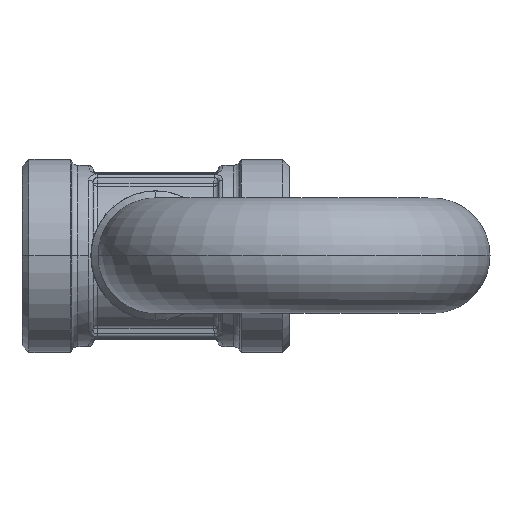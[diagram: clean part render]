
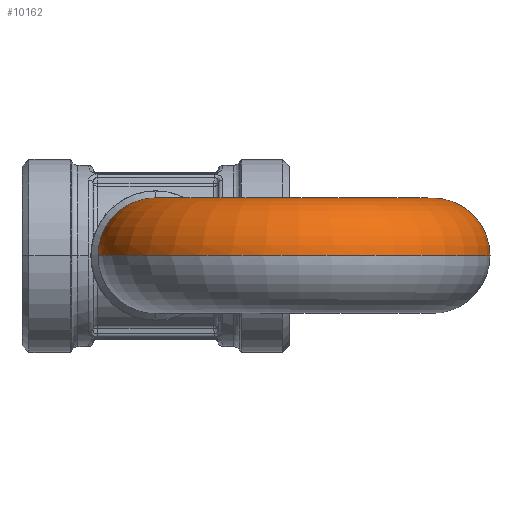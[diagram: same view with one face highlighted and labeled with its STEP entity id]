
A CAD part, top view. The second image highlights one B-rep face of the part: STEP entity #10162.
In plain terms, the highlighted toroidal (fillet/blend) face has major radius 30 mm and minor radius 12.5 mm.
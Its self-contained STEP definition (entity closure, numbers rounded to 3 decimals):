
#321 = CARTESIAN_POINT ( 'NONE',  ( 18.584, -0.977, -5.165 ) ) ;
#924 = CARTESIAN_POINT ( 'NONE',  ( 23.37, -0.989, -10.618 ) ) ;
#1080 = CARTESIAN_POINT ( 'NONE',  ( 22.353, -0.987, -9.938 ) ) ;
#1310 = VERTEX_POINT ( 'NONE', #12063 ) ;
#1712 = CARTESIAN_POINT ( 'NONE',  ( 34.009, -1., -11.842 ) ) ;
#1861 = CARTESIAN_POINT ( 'NONE',  ( 34.398, -1., -11.703 ) ) ;
#2171 = CARTESIAN_POINT ( 'NONE',  ( 39.926, -1., -7.625 ) ) ;
#2689 = B_SPLINE_CURVE_WITH_KNOTS ( 'NONE', 3,
 ( #16621, #14279, #23750, #26390, #21596, #16935, #19092, #321, #28571, #7316, #8238, #3276, #17395, #17244, #20017, #1080, #924, #8092, #26710, #10410, #10112, #19403, #3574, #5301, #24826, #29181, #5463 ),
 .UNSPECIFIED., .F., .F.,
 ( 4, 2, 2, 2, 2, 1, 2, 2, 2, 2, 2, 2, 2, 4 ),
 ( 0.02, 0.021, 0.022, 0.025, 0.026, 0.027, 0.028, 0.029, 0.032, 0.033, 0.034, 0.037, 0.038, 0.039 ),
 .UNSPECIFIED. ) ;
#2742 = DIRECTION ( 'NONE',  ( 1., 0., 0. ) ) ;
#3276 = CARTESIAN_POINT ( 'NONE',  ( 20.052, -0.981, -7.612 ) ) ;
#3445 = CARTESIAN_POINT ( 'NONE',  ( 42.488, -1., -0.407 ) ) ;
#3574 = CARTESIAN_POINT ( 'NONE',  ( 27.938, -0.997, -12.338 ) ) ;
#4194 = CARTESIAN_POINT ( 'NONE',  ( 39.41, -1., -8.254 ) ) ;
#4342 = CARTESIAN_POINT ( 'NONE',  ( 32.437, -1., -12.277 ) ) ;
#4492 = CARTESIAN_POINT ( 'NONE',  ( 30.402, -1., -12.5 ) ) ;
#5301 = CARTESIAN_POINT ( 'NONE',  ( 28.347, -0.998, -12.399 ) ) ;
#5463 = CARTESIAN_POINT ( 'NONE',  ( 29.992, -1., -12.5 ) ) ;
#5729 = EDGE_LOOP ( 'NONE', ( #10240, #19951, #8243, #11406, #9794 ) ) ;
#5947 = VERTEX_POINT ( 'NONE', #6864 ) ;
#6380 = CARTESIAN_POINT ( 'NONE',  ( 31.631, -1., -12.398 ) ) ;
#6467 = DIRECTION ( 'NONE',  ( 0., 0., 1. ) ) ;
#6524 = VERTEX_POINT ( 'NONE', #24897 ) ;
#6686 = CARTESIAN_POINT ( 'NONE',  ( 35.538, -1., -11.229 ) ) ;
#6864 = CARTESIAN_POINT ( 'NONE',  ( -42.5, 0., 0. ) ) ;
#7316 = CARTESIAN_POINT ( 'NONE',  ( 19.147, -0.978, -6.258 ) ) ;
#7718 = AXIS2_PLACEMENT_3D ( 'NONE', #27435, #22763, #25397 ) ;
#8092 = CARTESIAN_POINT ( 'NONE',  ( 23.721, -0.99, -10.829 ) ) ;
#8238 = CARTESIAN_POINT ( 'NONE',  ( 19.566, -0.98, -6.957 ) ) ;
#8243 = ORIENTED_EDGE ( 'NONE', *, *, #22248, .T. ) ;
#9738 = FACE_OUTER_BOUND ( 'NONE', #5729, .T. ) ;
#9794 = ORIENTED_EDGE ( 'NONE', *, *, #21759, .F. ) ;
#10112 = CARTESIAN_POINT ( 'NONE',  ( 25.953, -0.994, -11.861 ) ) ;
#10162 = ADVANCED_FACE ( 'NONE', ( #9738 ), #14504, .T. ) ;
#10240 = ORIENTED_EDGE ( 'NONE', *, *, #25401, .F. ) ;
#10410 = CARTESIAN_POINT ( 'NONE',  ( 24.821, -0.992, -11.393 ) ) ;
#10885 = CARTESIAN_POINT ( 'NONE',  ( 42.488, -1., 0. ) ) ;
#11038 = AXIS2_PLACEMENT_3D ( 'NONE', #28667, #23987, #2742 ) ;
#11186 = CARTESIAN_POINT ( 'NONE',  ( 30.816, -1., -12.479 ) ) ;
#11406 = ORIENTED_EDGE ( 'NONE', *, *, #14247, .T. ) ;
#11489 = CARTESIAN_POINT ( 'NONE',  ( 41.383, -1., -5.155 ) ) ;
#12063 = CARTESIAN_POINT ( 'NONE',  ( 29.992, -1., -12.5 ) ) ;
#12736 = CARTESIAN_POINT ( 'NONE',  ( 42.468, -1., -0.814 ) ) ;
#13125 = CIRCLE ( 'NONE', #19081, 42.5 ) ;
#13236 = VERTEX_POINT ( 'NONE', #15555 ) ;
#13451 = AXIS2_PLACEMENT_3D ( 'NONE', #23779, #26122, #18673 ) ;
#13812 = CARTESIAN_POINT ( 'NONE',  ( 37.273, -1., -10.165 ) ) ;
#14247 = EDGE_CURVE ( 'NONE', #22150, #1310, #2689, .T. ) ;
#14279 = CARTESIAN_POINT ( 'NONE',  ( 17.473, -0.973, -0.409 ) ) ;
#14504 = TOROIDAL_SURFACE ( 'NONE', #11038, 30., 12.5 ) ;
#15395 = CARTESIAN_POINT ( 'NONE',  ( 41.85, -1., -4.026 ) ) ;
#15555 = CARTESIAN_POINT ( 'NONE',  ( 42.488, -1., 0. ) ) ;
#16006 = CARTESIAN_POINT ( 'NONE',  ( 40.821, -1., -6.25 ) ) ;
#16154 = CARTESIAN_POINT ( 'NONE',  ( 38.237, -1., -9.4 ) ) ;
#16298 = CARTESIAN_POINT ( 'NONE',  ( 29.992, -1., -12.5 ) ) ;
#16575 = EDGE_CURVE ( 'NONE', #5947, #6524, #21607, .T. ) ;
#16621 = CARTESIAN_POINT ( 'NONE',  ( 17.473, -0.973, 0. ) ) ;
#16935 = CARTESIAN_POINT ( 'NONE',  ( 17.874, -0.974, -3.244 ) ) ;
#17244 = CARTESIAN_POINT ( 'NONE',  ( 20.85, -0.983, -8.551 ) ) ;
#17395 = CARTESIAN_POINT ( 'NONE',  ( 20.572, -0.982, -8.245 ) ) ;
#18374 = CARTESIAN_POINT ( 'NONE',  ( 17.473, -0.973, 0. ) ) ;
#18467 = CARTESIAN_POINT ( 'NONE',  ( 41.208, -1., -5.525 ) ) ;
#18673 = DIRECTION ( 'NONE',  ( 1., 0., 0. ) ) ;
#19081 = AXIS2_PLACEMENT_3D ( 'NONE', #25229, #6467, #25383 ) ;
#19092 = CARTESIAN_POINT ( 'NONE',  ( 18.111, -0.975, -4.024 ) ) ;
#19403 = CARTESIAN_POINT ( 'NONE',  ( 26.732, -0.995, -12.098 ) ) ;
#19951 = ORIENTED_EDGE ( 'NONE', *, *, #16575, .T. ) ;
#20017 = CARTESIAN_POINT ( 'NONE',  ( 21.722, -0.985, -9.422 ) ) ;
#21357 = B_SPLINE_CURVE_WITH_KNOTS ( 'NONE', 3,
 ( #10885, #3445, #12736, #22665, #27181, #22218, #15395, #11489, #18467, #16006, #23273, #2171, #4194, #30389, #16154, #22961, #13812, #25604, #6686, #1861, #1712, #27947, #4342, #6380, #11186, #4492, #16298 ),
 .UNSPECIFIED., .F., .F.,
 ( 4, 2, 2, 2, 2, 2, 2, 2, 2, 2, 2, 1, 2, 4 ),
 ( 0.048, 0.049, 0.051, 0.053, 0.054, 0.055, 0.058, 0.059, 0.06, 0.063, 0.064, 0.065, 0.066, 0.068 ),
 .UNSPECIFIED. ) ;
#21596 = CARTESIAN_POINT ( 'NONE',  ( 17.635, -0.973, -2.045 ) ) ;
#21607 = CIRCLE ( 'NONE', #7718, 12.5 ) ;
#21759 = EDGE_CURVE ( 'NONE', #13236, #1310, #21357, .T. ) ;
#22150 = VERTEX_POINT ( 'NONE', #18374 ) ;
#22218 = CARTESIAN_POINT ( 'NONE',  ( 42.087, -1., -3.246 ) ) ;
#22248 = EDGE_CURVE ( 'NONE', #6524, #22150, #29316, .T. ) ;
#22665 = CARTESIAN_POINT ( 'NONE',  ( 42.389, -1., -1.627 ) ) ;
#22763 = DIRECTION ( 'NONE',  ( 0., -1., 0. ) ) ;
#22961 = CARTESIAN_POINT ( 'NONE',  ( 37.601, -1., -9.922 ) ) ;
#23273 = CARTESIAN_POINT ( 'NONE',  ( 40.608, -1., -6.605 ) ) ;
#23750 = CARTESIAN_POINT ( 'NONE',  ( 17.493, -0.973, -0.822 ) ) ;
#23779 = CARTESIAN_POINT ( 'NONE',  ( 0., 0., 0. ) ) ;
#23987 = DIRECTION ( 'NONE',  ( 0., 0., 1. ) ) ;
#24826 = CARTESIAN_POINT ( 'NONE',  ( 29.167, -0.999, -12.48 ) ) ;
#24897 = CARTESIAN_POINT ( 'NONE',  ( -17.5, 0., 0. ) ) ;
#25229 = CARTESIAN_POINT ( 'NONE',  ( 0., 0., 0. ) ) ;
#25383 = DIRECTION ( 'NONE',  ( 1., 0., 0. ) ) ;
#25397 = DIRECTION ( 'NONE',  ( 1., 0., 0. ) ) ;
#25401 = EDGE_CURVE ( 'NONE', #5947, #13236, #13125, .T. ) ;
#25604 = CARTESIAN_POINT ( 'NONE',  ( 36.256, -1., -10.844 ) ) ;
#26122 = DIRECTION ( 'NONE',  ( 0., 0., 1. ) ) ;
#26390 = CARTESIAN_POINT ( 'NONE',  ( 17.574, -0.973, -1.641 ) ) ;
#26710 = CARTESIAN_POINT ( 'NONE',  ( 24.449, -0.991, -11.217 ) ) ;
#27181 = CARTESIAN_POINT ( 'NONE',  ( 42.328, -1., -2.034 ) ) ;
#27435 = CARTESIAN_POINT ( 'NONE',  ( -30., 0., 0. ) ) ;
#27947 = CARTESIAN_POINT ( 'NONE',  ( 33.227, -1., -12.079 ) ) ;
#28571 = CARTESIAN_POINT ( 'NONE',  ( 18.761, -0.977, -5.538 ) ) ;
#28667 = CARTESIAN_POINT ( 'NONE',  ( 0., 0., 0. ) ) ;
#29181 = CARTESIAN_POINT ( 'NONE',  ( 29.579, -0.999, -12.5 ) ) ;
#29316 = CIRCLE ( 'NONE', #13451, 17.5 ) ;
#30389 = CARTESIAN_POINT ( 'NONE',  ( 38.543, -1., -9.122 ) ) ;
